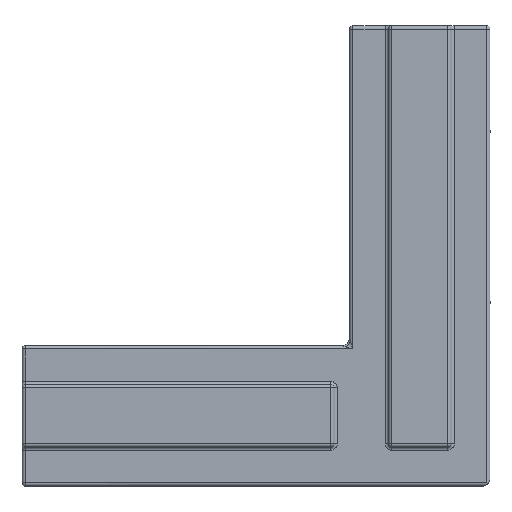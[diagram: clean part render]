
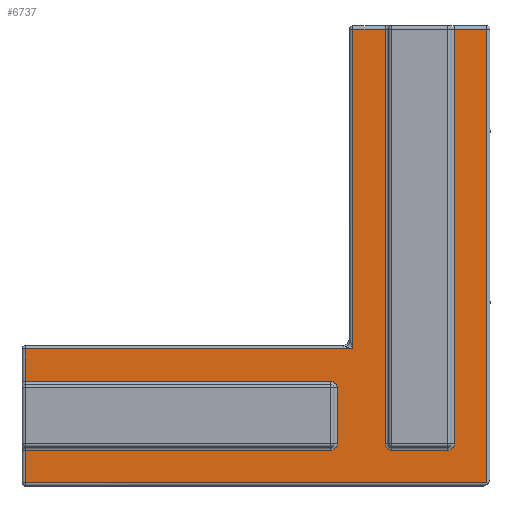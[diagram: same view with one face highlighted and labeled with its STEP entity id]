
A CAD part, left-side view. The second image highlights one B-rep face of the part: STEP entity #6737.
In plain terms, the highlighted planar face has unit normal (-1, 0, 0).
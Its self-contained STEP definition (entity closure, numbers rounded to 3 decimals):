
#71 = ORIENTED_EDGE ( 'NONE', *, *, #22305, .T. ) ;
#723 = LINE ( 'NONE', #24928, #32099 ) ;
#985 = ORIENTED_EDGE ( 'NONE', *, *, #29795, .T. ) ;
#1185 = VERTEX_POINT ( 'NONE', #20212 ) ;
#1581 = VERTEX_POINT ( 'NONE', #5363 ) ;
#1652 = EDGE_CURVE ( 'NONE', #17118, #26267, #31851, .T. ) ;
#1909 = CARTESIAN_POINT ( 'NONE',  ( -3., -4.3, -0.2 ) ) ;
#1948 = VECTOR ( 'NONE', #22868, 1000. ) ;
#2063 = CARTESIAN_POINT ( 'NONE',  ( -3., 25.3, -27.2 ) ) ;
#2076 = CARTESIAN_POINT ( 'NONE',  ( -3., 5.7, -22.8 ) ) ;
#2159 = CIRCLE ( 'NONE', #30914, 0.4 ) ;
#2181 = AXIS2_PLACEMENT_3D ( 'NONE', #22088, #12238, #29548 ) ;
#3037 = VERTEX_POINT ( 'NONE', #3650 ) ;
#3355 = CARTESIAN_POINT ( 'NONE',  ( -3., 5.3, -26.8 ) ) ;
#3650 = CARTESIAN_POINT ( 'NONE',  ( -3., 25.3, -29.3 ) ) ;
#3678 = VECTOR ( 'NONE', #6348, 1000. ) ;
#3723 = VERTEX_POINT ( 'NONE', #5224 ) ;
#3921 = CARTESIAN_POINT ( 'NONE',  ( -3., 5.7, -27.2 ) ) ;
#4144 = LINE ( 'NONE', #26812, #29690 ) ;
#4396 = DIRECTION ( 'NONE',  ( 0., 0., -1. ) ) ;
#4441 = CARTESIAN_POINT ( 'NONE',  ( -3., 5.7, -26.8 ) ) ;
#4819 = CARTESIAN_POINT ( 'NONE',  ( -3., 4.3, -27. ) ) ;
#4866 = DIRECTION ( 'NONE',  ( 0., 0., -1. ) ) ;
#5224 = CARTESIAN_POINT ( 'NONE',  ( -3., -2.2, -26.8 ) ) ;
#5363 = CARTESIAN_POINT ( 'NONE',  ( -3., 25.3, -20.7 ) ) ;
#5572 = CARTESIAN_POINT ( 'NONE',  ( -3., -4.5, -22.8 ) ) ;
#6348 = DIRECTION ( 'NONE',  ( 0., 0., 1. ) ) ;
#6737 = ADVANCED_FACE ( 'NONE', ( #24951 ), #24570, .T. ) ;
#6840 = EDGE_CURVE ( 'NONE', #1581, #9656, #9139, .T. ) ;
#6921 = DIRECTION ( 'NONE',  ( 0., -1., 0. ) ) ;
#6979 = VECTOR ( 'NONE', #13108, 1000. ) ;
#7060 = CARTESIAN_POINT ( 'NONE',  ( -3., 1.8, -26.8 ) ) ;
#7085 = EDGE_LOOP ( 'NONE', ( #13986, #30613, #13908, #71, #26589, #18223, #20489, #13265, #985, #25266, #24915, #31928, #22771, #14231, #25577, #12278, #23719, #10554 ) ) ;
#7313 = DIRECTION ( 'NONE',  ( 0., 0., -1. ) ) ;
#7755 = LINE ( 'NONE', #15603, #6979 ) ;
#7892 = EDGE_CURVE ( 'NONE', #9656, #16361, #17646, .T. ) ;
#8079 = CARTESIAN_POINT ( 'NONE',  ( -3., -4.3, -27. ) ) ;
#8171 = VERTEX_POINT ( 'NONE', #15551 ) ;
#8238 = EDGE_CURVE ( 'NONE', #13186, #29874, #10282, .T. ) ;
#8849 = EDGE_CURVE ( 'NONE', #3037, #13186, #22654, .T. ) ;
#8900 = EDGE_CURVE ( 'NONE', #17118, #16361, #2159, .T. ) ;
#9139 = LINE ( 'NONE', #22194, #21546 ) ;
#9465 = DIRECTION ( 'NONE',  ( -1., 0., 0. ) ) ;
#9566 = DIRECTION ( 'NONE',  ( 0., -1., 0. ) ) ;
#9656 = VERTEX_POINT ( 'NONE', #28619 ) ;
#9948 = VECTOR ( 'NONE', #7313, 1000. ) ;
#10282 = LINE ( 'NONE', #8079, #3678 ) ;
#10463 = CARTESIAN_POINT ( 'NONE',  ( -3., 5.3, -27. ) ) ;
#10508 = EDGE_CURVE ( 'NONE', #23137, #3037, #29632, .T. ) ;
#10554 = ORIENTED_EDGE ( 'NONE', *, *, #7892, .T. ) ;
#11048 = VECTOR ( 'NONE', #25379, 1000. ) ;
#11122 = LINE ( 'NONE', #24036, #16953 ) ;
#11199 = AXIS2_PLACEMENT_3D ( 'NONE', #4441, #21769, #6921 ) ;
#11506 = LINE ( 'NONE', #4819, #9948 ) ;
#11763 = DIRECTION ( 'NONE',  ( 0., 0., 1. ) ) ;
#11891 = CIRCLE ( 'NONE', #26133, 0.4 ) ;
#11990 = LINE ( 'NONE', #14263, #17784 ) ;
#12238 = DIRECTION ( 'NONE',  ( -1., 0., 0. ) ) ;
#12278 = ORIENTED_EDGE ( 'NONE', *, *, #20130, .T. ) ;
#12602 = DIRECTION ( 'NONE',  ( 0., 1., 0. ) ) ;
#12829 = VERTEX_POINT ( 'NONE', #3921 ) ;
#12962 = DIRECTION ( 'NONE',  ( 0., 0., -1. ) ) ;
#13108 = DIRECTION ( 'NONE',  ( 0., 1., 0. ) ) ;
#13186 = VERTEX_POINT ( 'NONE', #23837 ) ;
#13265 = ORIENTED_EDGE ( 'NONE', *, *, #32073, .T. ) ;
#13540 = VECTOR ( 'NONE', #4396, 1000. ) ;
#13908 = ORIENTED_EDGE ( 'NONE', *, *, #22916, .F. ) ;
#13986 = ORIENTED_EDGE ( 'NONE', *, *, #8900, .F. ) ;
#14231 = ORIENTED_EDGE ( 'NONE', *, *, #25896, .T. ) ;
#14263 = CARTESIAN_POINT ( 'NONE',  ( -3., 2.2, -27. ) ) ;
#14299 = DIRECTION ( 'NONE',  ( -1., 0., 0. ) ) ;
#14457 = CARTESIAN_POINT ( 'NONE',  ( -3., 1.8, -27.2 ) ) ;
#14987 = CIRCLE ( 'NONE', #11199, 0.4 ) ;
#15551 = CARTESIAN_POINT ( 'NONE',  ( -3., 2.2, -26.8 ) ) ;
#15603 = CARTESIAN_POINT ( 'NONE',  ( -3., 4.5, -0.2 ) ) ;
#16361 = VERTEX_POINT ( 'NONE', #2076 ) ;
#16674 = CARTESIAN_POINT ( 'NONE',  ( -3., -4.5, -29.3 ) ) ;
#16952 = DIRECTION ( 'NONE',  ( 0., 0., -1. ) ) ;
#16953 = VECTOR ( 'NONE', #18728, 1000. ) ;
#17118 = VERTEX_POINT ( 'NONE', #20019 ) ;
#17646 = LINE ( 'NONE', #5572, #11048 ) ;
#17784 = VECTOR ( 'NONE', #11763, 1000. ) ;
#18223 = ORIENTED_EDGE ( 'NONE', *, *, #8849, .T. ) ;
#18295 = VERTEX_POINT ( 'NONE', #14457 ) ;
#18550 = LINE ( 'NONE', #19224, #13540 ) ;
#18669 = VECTOR ( 'NONE', #12962, 1000. ) ;
#18728 = DIRECTION ( 'NONE',  ( 0., 1., 0. ) ) ;
#19224 = CARTESIAN_POINT ( 'NONE',  ( -3., -2.2, -27. ) ) ;
#19477 = CARTESIAN_POINT ( 'NONE',  ( -3., 4.3, -0.2 ) ) ;
#20019 = CARTESIAN_POINT ( 'NONE',  ( -3., 5.3, -23.2 ) ) ;
#20130 = EDGE_CURVE ( 'NONE', #1185, #1581, #11122, .T. ) ;
#20212 = CARTESIAN_POINT ( 'NONE',  ( -3., 4.3, -20.7 ) ) ;
#20489 = ORIENTED_EDGE ( 'NONE', *, *, #8238, .T. ) ;
#21238 = AXIS2_PLACEMENT_3D ( 'NONE', #7060, #24378, #9566 ) ;
#21546 = VECTOR ( 'NONE', #4866, 1000. ) ;
#21650 = DIRECTION ( 'NONE',  ( 0., -1., 0. ) ) ;
#21769 = DIRECTION ( 'NONE',  ( -1., 0., 0. ) ) ;
#21912 = CARTESIAN_POINT ( 'NONE',  ( -3., -2.2, -0.2 ) ) ;
#22088 = CARTESIAN_POINT ( 'NONE',  ( -3., -4.5, -27. ) ) ;
#22194 = CARTESIAN_POINT ( 'NONE',  ( -3., 25.3, -27. ) ) ;
#22268 = VECTOR ( 'NONE', #16952, 1000. ) ;
#22305 = EDGE_CURVE ( 'NONE', #12829, #23137, #4144, .T. ) ;
#22396 = EDGE_CURVE ( 'NONE', #23744, #1185, #11506, .T. ) ;
#22654 = LINE ( 'NONE', #16674, #27713 ) ;
#22771 = ORIENTED_EDGE ( 'NONE', *, *, #29842, .T. ) ;
#22868 = DIRECTION ( 'NONE',  ( 0., 1., 0. ) ) ;
#22916 = EDGE_CURVE ( 'NONE', #12829, #26267, #14987, .T. ) ;
#23137 = VERTEX_POINT ( 'NONE', #2063 ) ;
#23719 = ORIENTED_EDGE ( 'NONE', *, *, #6840, .T. ) ;
#23744 = VERTEX_POINT ( 'NONE', #19477 ) ;
#23837 = CARTESIAN_POINT ( 'NONE',  ( -3., -4.3, -29.3 ) ) ;
#23887 = CARTESIAN_POINT ( 'NONE',  ( -3., 2.2, -0.2 ) ) ;
#23962 = EDGE_CURVE ( 'NONE', #29928, #3723, #11891, .T. ) ;
#24036 = CARTESIAN_POINT ( 'NONE',  ( -3., -4.5, -20.7 ) ) ;
#24193 = CARTESIAN_POINT ( 'NONE',  ( -3., -1.8, -27.2 ) ) ;
#24281 = CARTESIAN_POINT ( 'NONE',  ( -3., -1.8, -26.8 ) ) ;
#24378 = DIRECTION ( 'NONE',  ( -1., 0., 0. ) ) ;
#24440 = VERTEX_POINT ( 'NONE', #21912 ) ;
#24509 = VERTEX_POINT ( 'NONE', #23887 ) ;
#24524 = DIRECTION ( 'NONE',  ( 0., 1., 0. ) ) ;
#24570 = PLANE ( 'NONE',  #2181 ) ;
#24915 = ORIENTED_EDGE ( 'NONE', *, *, #31389, .T. ) ;
#24928 = CARTESIAN_POINT ( 'NONE',  ( -3., -4.5, -27.2 ) ) ;
#24951 = FACE_OUTER_BOUND ( 'NONE', #7085, .T. ) ;
#25266 = ORIENTED_EDGE ( 'NONE', *, *, #23962, .F. ) ;
#25379 = DIRECTION ( 'NONE',  ( 0., -1., 0. ) ) ;
#25577 = ORIENTED_EDGE ( 'NONE', *, *, #22396, .T. ) ;
#25896 = EDGE_CURVE ( 'NONE', #24509, #23744, #7755, .T. ) ;
#26133 = AXIS2_PLACEMENT_3D ( 'NONE', #24281, #9465, #26780 ) ;
#26267 = VERTEX_POINT ( 'NONE', #3355 ) ;
#26589 = ORIENTED_EDGE ( 'NONE', *, *, #10508, .T. ) ;
#26780 = DIRECTION ( 'NONE',  ( 0., -1., 0. ) ) ;
#26796 = CARTESIAN_POINT ( 'NONE',  ( -3., 25.3, -27. ) ) ;
#26812 = CARTESIAN_POINT ( 'NONE',  ( -3., -4.5, -27.2 ) ) ;
#27483 = CIRCLE ( 'NONE', #21238, 0.4 ) ;
#27713 = VECTOR ( 'NONE', #21650, 1000. ) ;
#27862 = CARTESIAN_POINT ( 'NONE',  ( -3., -2., -0.2 ) ) ;
#28264 = LINE ( 'NONE', #27862, #1948 ) ;
#28619 = CARTESIAN_POINT ( 'NONE',  ( -3., 25.3, -22.8 ) ) ;
#29102 = CARTESIAN_POINT ( 'NONE',  ( -3., 5.7, -23.2 ) ) ;
#29120 = EDGE_CURVE ( 'NONE', #8171, #18295, #27483, .T. ) ;
#29548 = DIRECTION ( 'NONE',  ( 0., -1., 0. ) ) ;
#29632 = LINE ( 'NONE', #26796, #22268 ) ;
#29690 = VECTOR ( 'NONE', #24524, 1000. ) ;
#29795 = EDGE_CURVE ( 'NONE', #24440, #3723, #18550, .T. ) ;
#29842 = EDGE_CURVE ( 'NONE', #8171, #24509, #11990, .T. ) ;
#29874 = VERTEX_POINT ( 'NONE', #1909 ) ;
#29928 = VERTEX_POINT ( 'NONE', #24193 ) ;
#30613 = ORIENTED_EDGE ( 'NONE', *, *, #1652, .T. ) ;
#30914 = AXIS2_PLACEMENT_3D ( 'NONE', #29102, #14299, #31587 ) ;
#31389 = EDGE_CURVE ( 'NONE', #29928, #18295, #723, .T. ) ;
#31587 = DIRECTION ( 'NONE',  ( 0., -1., 0. ) ) ;
#31851 = LINE ( 'NONE', #10463, #18669 ) ;
#31928 = ORIENTED_EDGE ( 'NONE', *, *, #29120, .F. ) ;
#32073 = EDGE_CURVE ( 'NONE', #29874, #24440, #28264, .T. ) ;
#32099 = VECTOR ( 'NONE', #12602, 1000. ) ;
